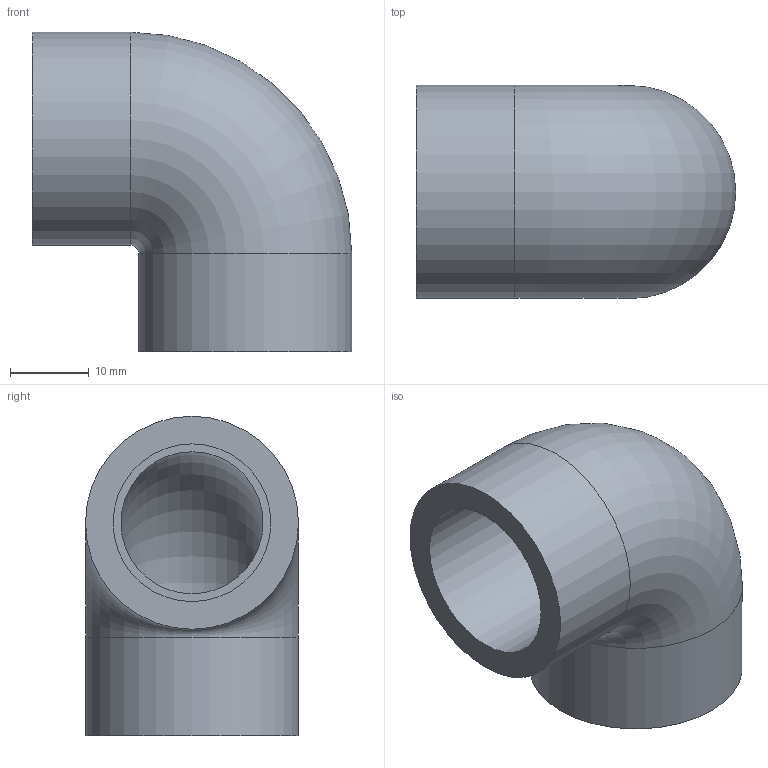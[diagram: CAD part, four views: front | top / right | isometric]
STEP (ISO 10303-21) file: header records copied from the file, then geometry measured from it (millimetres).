
FILE_DESCRIPTION(/* description */ ('PVC Elbow 90° solvent cement metric'),/* implementation_level */ '2;1');
FILE_NAME(/* name */ 'C:\Users\POLYPIPE\Desktop\DATASET INVENTOR\LIBRERIA EFFAST\RACCORDI 3DxWEB\RDR\3D_RDRGOD\3D_RDRGOD0200.stp',/* time_stamp */ '2018-01-19T14:27:00+01:00',/* author */ ('POLYPIPE'),/* organization */ ('Polypipe Italia s.r.l.'),/* preprocessor_version */ 'ST-DEVELOPER v16.1',/* originating_system */ 'Autodesk Inventor 2016',/* authorisation */ '');
FILE_SCHEMA (('CONFIG_CONTROL_DESIGN'));
Length unit declared in the file: millimetre
Products named in the file (1): 3D_RDRGOD
Bounding box: 40.5 x 27 x 40.5 mm (x, y, z)
Volume: 12904.7 mm3; surface area: 7676.4 mm2
Topology: 1 solids, 1 shells, 10 faces, 16 edges, 10 vertices
Faces by surface type: cylinder 4, plane 4, torus 2
Full cylindrical faces by diameter (mm): 20 x2, 27 x2
Entity records: 232 total; most frequent: DIRECTION 42, CARTESIAN_POINT 31, AXIS2_PLACEMENT_3D 21, EDGE_LOOP 20, ORIENTED_EDGE 20, FACE_BOUND 10, FACE_OUTER_BOUND 10, CIRCLE 10
